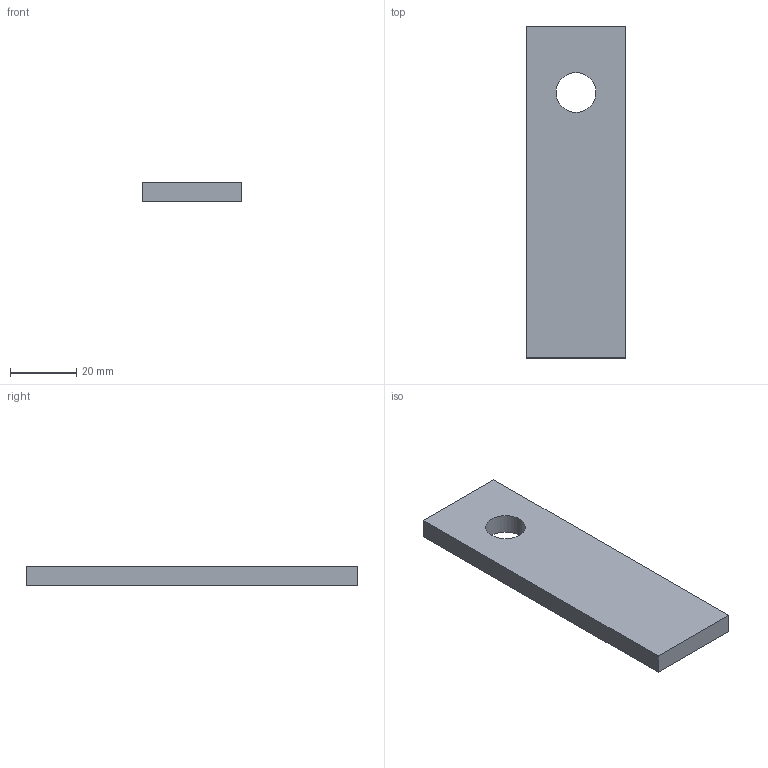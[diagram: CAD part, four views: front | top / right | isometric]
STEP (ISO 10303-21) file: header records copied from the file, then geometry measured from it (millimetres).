
FILE_DESCRIPTION(('Open CASCADE Model'),'2;1');
FILE_NAME('Open CASCADE Shape Model','2026-10-19T10:09:27',('Author'),( 'Open CASCADE'),'Open CASCADE STEP processor 8.0','Open CASCADE 8.0' ,'Unknown');
FILE_SCHEMA(('AUTOMOTIVE_DESIGN { 1 0 10303 214 1 1 1 1 }'));
Length unit declared in the file: millimetre
Products named in the file (1): AC_PUERTA_COLGADOR_30x100x6 187
Bounding box: 30 x 100 x 6 mm (x, y, z)
Volume: 17321.4 mm3; surface area: 7560 mm2
Topology: 1 solids, 1 shells, 7 faces, 15 edges, 10 vertices
Faces by surface type: plane 6, cylinder 1
Full cylindrical faces by diameter (mm): 12 x1
Entity records: 400 total; most frequent: CARTESIAN_POINT 63, DIRECTION 63, LINE 41, VECTOR 41, ORIENTED_EDGE 30, PCURVE 30, DEFINITIONAL_REPRESENTATION 30, EDGE_CURVE 15
